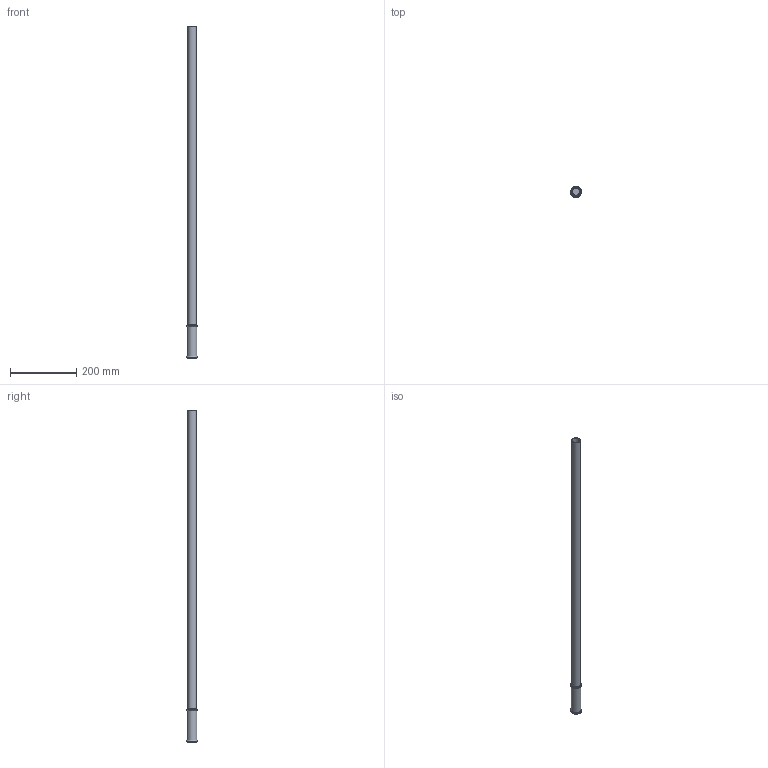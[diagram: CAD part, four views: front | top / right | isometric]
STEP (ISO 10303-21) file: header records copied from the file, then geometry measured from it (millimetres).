
FILE_DESCRIPTION(/* description */ ('Unknown'),/* implementation_level */ '2;1');
FILE_NAME(/* name */ 'LV27X1000',/* time_stamp */ '2024-11-27T16:38:12+01:00',/* author */ ('Unknown'),/* organization */ ('Unknown'),/* preprocessor_version */ 'ST-DEVELOPER v19.4',/* originating_system */ 'Solid Edge',/* authorisation */ 'Unknown');
FILE_SCHEMA (('AUTOMOTIVE_DESIGN {1 0 10303 214 3 1 1}'));
Length unit declared in the file: millimetre
Products named in the file (1): LV27X1000
Bounding box: 33.97 x 33.97 x 1005 mm (x, y, z)
Volume: 210278.4 mm3; surface area: 157223.7 mm2
Topology: 1 solids, 1 shells, 15 faces, 33 edges, 20 vertices
Faces by surface type: cylinder 6, plane 4, torus 4, cone 1
Full cylindrical faces by diameter (mm): 5 x1, 22 x1, 27 x1, 30 x1, 34 x2
Entity records: 352 total; most frequent: CARTESIAN_POINT 66, DIRECTION 58, ORIENTED_EDGE 30, EDGE_LOOP 30, FACE_BOUND 30, AXIS2_PLACEMENT_3D 29, EDGE_CURVE 15, VERTEX_POINT 15
